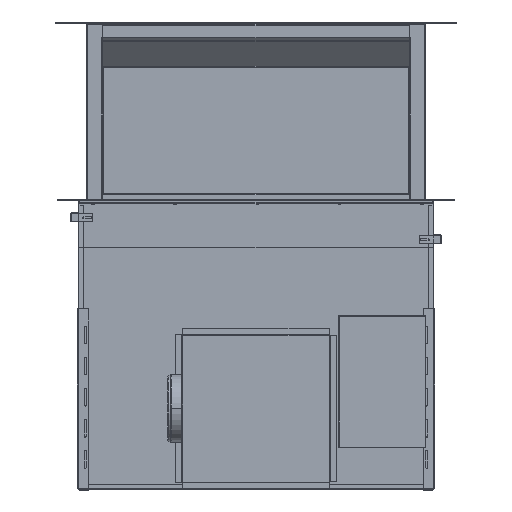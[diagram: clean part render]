
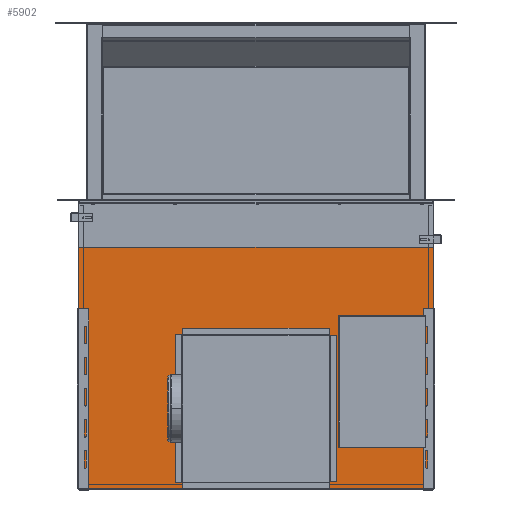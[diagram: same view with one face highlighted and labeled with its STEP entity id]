
A CAD part, front view. The second image highlights one B-rep face of the part: STEP entity #5902.
In plain terms, the highlighted planar face has unit normal (0, -1, 0).
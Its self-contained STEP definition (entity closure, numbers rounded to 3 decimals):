
#638=LINE('',#26987,#2377);
#639=LINE('',#26990,#2378);
#640=LINE('',#26992,#2379);
#641=LINE('',#26994,#2380);
#642=LINE('',#26995,#2381);
#643=LINE('',#26998,#2382);
#644=LINE('',#27000,#2383);
#645=LINE('',#27002,#2384);
#2377=VECTOR('',#21136,1.);
#2378=VECTOR('',#21137,1.);
#2379=VECTOR('',#21138,1.);
#2380=VECTOR('',#21139,1.);
#2381=VECTOR('',#21140,1.);
#2382=VECTOR('',#21141,1.);
#2383=VECTOR('',#21142,1.);
#2384=VECTOR('',#21143,1.);
#4116=PLANE('',#18457);
#5902=ADVANCED_FACE('',(#7016,#7017),#4116,.T.);
#7016=FACE_BOUND('',#7451,.T.);
#7017=FACE_BOUND('',#7452,.T.);
#7451=EDGE_LOOP('',(#9631,#9632,#9633,#9634));
#7452=EDGE_LOOP('',(#9635,#9636,#9637,#9638));
#9631=ORIENTED_EDGE('',*,*,#15465,.T.);
#9632=ORIENTED_EDGE('',*,*,#15466,.T.);
#9633=ORIENTED_EDGE('',*,*,#15467,.T.);
#9634=ORIENTED_EDGE('',*,*,#15468,.T.);
#9635=ORIENTED_EDGE('',*,*,#15469,.F.);
#9636=ORIENTED_EDGE('',*,*,#15470,.F.);
#9637=ORIENTED_EDGE('',*,*,#15471,.F.);
#9638=ORIENTED_EDGE('',*,*,#15472,.F.);
#13685=VERTEX_POINT('',#26988);
#13686=VERTEX_POINT('',#26989);
#13687=VERTEX_POINT('',#26991);
#13688=VERTEX_POINT('',#26993);
#13689=VERTEX_POINT('',#26996);
#13690=VERTEX_POINT('',#26997);
#13691=VERTEX_POINT('',#26999);
#13692=VERTEX_POINT('',#27001);
#15465=EDGE_CURVE('',#13685,#13686,#638,.T.);
#15466=EDGE_CURVE('',#13686,#13687,#639,.T.);
#15467=EDGE_CURVE('',#13687,#13688,#640,.T.);
#15468=EDGE_CURVE('',#13688,#13685,#641,.T.);
#15469=EDGE_CURVE('',#13689,#13690,#642,.T.);
#15470=EDGE_CURVE('',#13691,#13689,#643,.T.);
#15471=EDGE_CURVE('',#13692,#13691,#644,.T.);
#15472=EDGE_CURVE('',#13690,#13692,#645,.T.);
#18457=AXIS2_PLACEMENT_3D('',#27003,#21144,#21145);
#21136=DIRECTION('',(0.,0.,1.));
#21137=DIRECTION('',(-1.,0.,0.));
#21138=DIRECTION('',(0.,0.,-1.));
#21139=DIRECTION('',(1.,0.,0.));
#21140=DIRECTION('',(-1.,0.,0.));
#21141=DIRECTION('',(0.,0.,1.));
#21142=DIRECTION('',(1.,0.,0.));
#21143=DIRECTION('',(0.,0.,-1.));
#21144=DIRECTION('',(0.,-1.,0.));
#21145=DIRECTION('',(-1.,0.,0.));
#26987=CARTESIAN_POINT('',(398.45,-308.5,70.95));
#26988=CARTESIAN_POINT('',(398.45,-308.5,70.95));
#26989=CARTESIAN_POINT('',(398.45,-308.5,614.35));
#26990=CARTESIAN_POINT('',(398.45,-308.5,614.35));
#26991=CARTESIAN_POINT('',(-398.45,-308.5,614.35));
#26992=CARTESIAN_POINT('',(-398.45,-308.5,614.35));
#26993=CARTESIAN_POINT('',(-398.45,-308.5,70.95));
#26994=CARTESIAN_POINT('',(-398.45,-308.5,70.95));
#26995=CARTESIAN_POINT('',(161.5,-308.5,415.9));
#26996=CARTESIAN_POINT('',(161.5,-308.5,415.9));
#26997=CARTESIAN_POINT('',(-161.5,-308.5,415.9));
#26998=CARTESIAN_POINT('',(161.5,-308.5,86.9));
#26999=CARTESIAN_POINT('',(161.5,-308.5,86.9));
#27000=CARTESIAN_POINT('',(-161.5,-308.5,86.9));
#27001=CARTESIAN_POINT('',(-161.5,-308.5,86.9));
#27002=CARTESIAN_POINT('',(-161.5,-308.5,415.9));
#27003=CARTESIAN_POINT('',(0.,-308.5,341.4));
